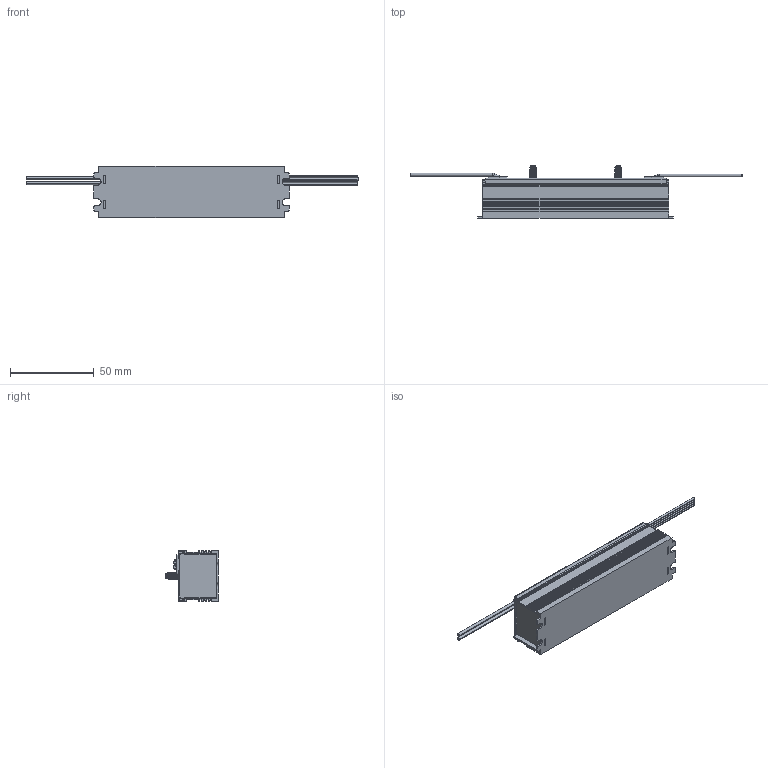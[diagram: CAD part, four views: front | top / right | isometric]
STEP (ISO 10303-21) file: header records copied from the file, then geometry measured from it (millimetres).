
FILE_DESCRIPTION((''),'2;1');
FILE_NAME('SVP_CASE_XIANGCAI_XIA_ASM','2026-07-02T15:03:54',('15365'),(''),'CREO PARAMETRIC BY PTC INC, 2025323','CREO PARAMETRIC BY PTC INC, 2025323','');
FILE_SCHEMA(('CONFIG_CONTROL_DESIGN','SHAPE_APPEARANCE_LAYERS_GROUPS'));
Length unit declared in the file: millimetre
Products named in the file (13): SVP_BOTTOM_XIACHUXIAN; SVP_CEGAI_XIACHUXIAN; SVP_TOP_XIACHUXIAN; SVF_HUXIANQUAN90_SHURU_XIA; BLK-XIAN-SLC; WHI-XIAN-SLC; RED-XIAN-SLC; YLW-XIAN-SLC; PUR-XIAN-SLC; PNK-XIAN-SLC; MTB_PAIZHENG; LUOZHU-M4; SVP_CASE_XIANGCAI_XIA_ASM
Assembly tree (15 placements, depth 2):
  SVP_CASE_XIANGCAI_XIA_ASM
    SVP_BOTTOM_XIACHUXIAN
    SVP_CEGAI_XIACHUXIAN  x2
    SVP_TOP_XIACHUXIAN
    SVF_HUXIANQUAN90_SHURU_XIA  x2
    BLK-XIAN-SLC
    WHI-XIAN-SLC
    RED-XIAN-SLC
    YLW-XIAN-SLC
    PUR-XIAN-SLC
    PNK-XIAN-SLC
    MTB_PAIZHENG
    LUOZHU-M4  x2
Bounding box: 198.2 x 31.3 x 30.5 mm (x, y, z)
Volume: 15036.8 mm3; surface area: 32747.9 mm2
Topology: 15 solids, 15 shells, 610 faces, 1644 edges, 1070 vertices
Faces by surface type: plane 358, cylinder 208, torus 24, bspline 16, cone 4
Entity records: 23277 total; most frequent: CARTESIAN_POINT 4471, ORIENTED_EDGE 2558, DIRECTION 2514, PRESENTATION_STYLE_ASSIGNMENT 1528, STYLED_ITEM 1528, EDGE_CURVE 1279, CURVE_STYLE 1078, VECTOR 920
